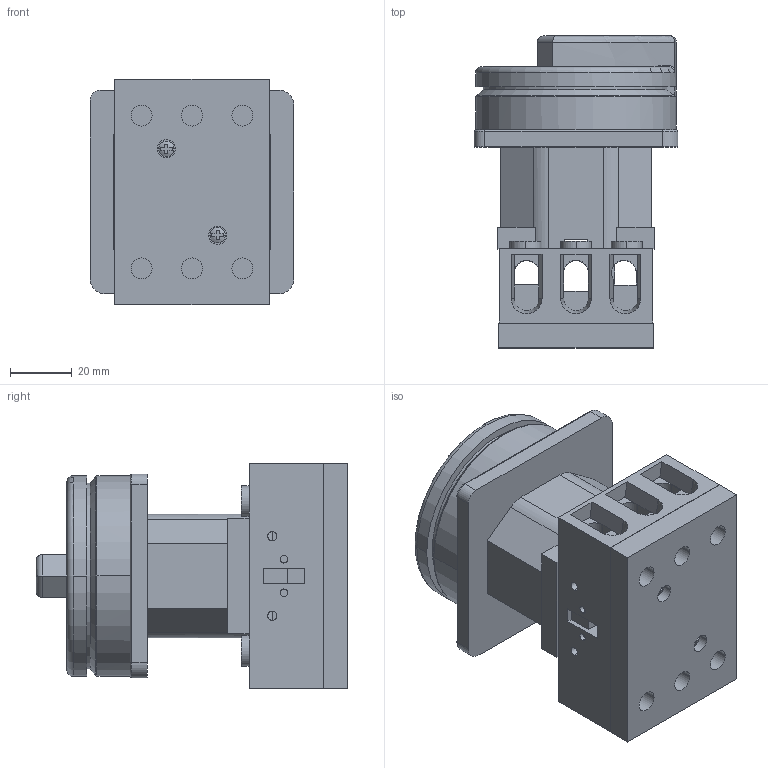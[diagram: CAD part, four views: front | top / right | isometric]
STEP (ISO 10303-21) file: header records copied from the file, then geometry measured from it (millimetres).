
FILE_DESCRIPTION((''),'2;1');
FILE_NAME('CDF1-63A','2023-08-11T',('xiaokai.shi'),(''),'PRO/ENGINEER BY PARAMETRIC TECHNOLOGY CORPORATION, 2015440','PRO/ENGINEER BY PARAMETRIC TECHNOLOGY CORPORATION, 2015440','');
FILE_SCHEMA(('CONFIG_CONTROL_DESIGN'));
Length unit declared in the file: millimetre
Products named in the file (1): CDF1-63A
Bounding box: 66 x 101 x 73 mm (x, y, z)
Surface area: 47946.6 mm2 (no closed solid volume)
Topology: 0 solids, 4 shells, 532 faces, 1393 edges, 909 vertices
Faces by surface type: plane 384, cylinder 110, bspline 12, torus 9, cone 7, sphere 4, extrusion 4, revolution 2
Entity records: 18381 total; most frequent: CARTESIAN_POINT 5149, ORIENTED_EDGE 2786, DIRECTION 2617, EDGE_CURVE 1393, VECTOR 1041, LINE 1037, VERTEX_POINT 909, AXIS2_PLACEMENT_3D 787
